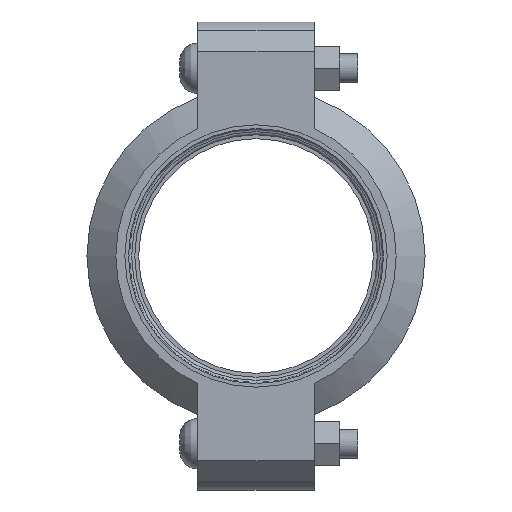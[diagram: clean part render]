
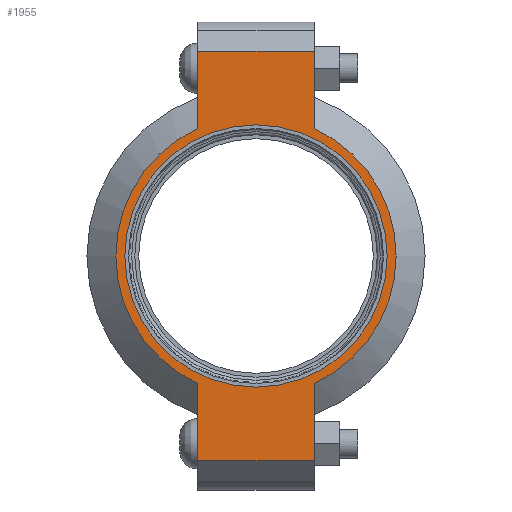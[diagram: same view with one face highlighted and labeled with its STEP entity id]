
A CAD part, left-side view. The second image highlights one B-rep face of the part: STEP entity #1955.
In plain terms, the highlighted planar face has unit normal (-1, 0, 0) as drawn and (0, 0, 1) by its records, which use the part's own axes.
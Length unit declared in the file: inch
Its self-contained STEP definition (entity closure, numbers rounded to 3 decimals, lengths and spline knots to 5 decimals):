
#144=LINE('',#3465,#241);
#152=LINE('',#3501,#249);
#159=LINE('',#3522,#256);
#168=LINE('',#3554,#265);
#169=LINE('',#3558,#266);
#170=LINE('',#3560,#267);
#241=VECTOR('',#2825,0.3937);
#249=VECTOR('',#2841,0.3937);
#256=VECTOR('',#2860,0.3937);
#265=VECTOR('',#2885,0.3937);
#266=VECTOR('',#2890,0.3937);
#267=VECTOR('',#2891,0.3937);
#323=FACE_BOUND('',#573,.T.);
#367=PLANE('',#2294);
#455=FACE_OUTER_BOUND('',#572,.T.);
#572=EDGE_LOOP('',(#1676,#1677,#1678,#1679,#1680,#1681,#1682,#1683));
#573=EDGE_LOOP('',(#1684));
#745=CIRCLE('',#2295,2.405);
#746=CIRCLE('',#2296,2.405);
#747=CIRCLE('',#2297,2.25);
#909=VERTEX_POINT('',#3462);
#910=VERTEX_POINT('',#3464);
#921=VERTEX_POINT('',#3496);
#922=VERTEX_POINT('',#3500);
#929=VERTEX_POINT('',#3519);
#930=VERTEX_POINT('',#3521);
#940=VERTEX_POINT('',#3557);
#941=VERTEX_POINT('',#3559);
#942=VERTEX_POINT('',#3562);
#1154=EDGE_CURVE('',#910,#909,#144,.T.);
#1168=EDGE_CURVE('',#922,#921,#152,.T.);
#1178=EDGE_CURVE('',#930,#929,#159,.T.);
#1193=EDGE_CURVE('',#922,#909,#168,.T.);
#1194=EDGE_CURVE('',#921,#930,#745,.T.);
#1195=EDGE_CURVE('',#940,#929,#169,.T.);
#1196=EDGE_CURVE('',#940,#941,#170,.T.);
#1197=EDGE_CURVE('',#941,#910,#746,.T.);
#1198=EDGE_CURVE('',#942,#942,#747,.T.);
#1676=ORIENTED_EDGE('',*,*,#1193,.F.);
#1677=ORIENTED_EDGE('',*,*,#1168,.T.);
#1678=ORIENTED_EDGE('',*,*,#1194,.T.);
#1679=ORIENTED_EDGE('',*,*,#1178,.T.);
#1680=ORIENTED_EDGE('',*,*,#1195,.F.);
#1681=ORIENTED_EDGE('',*,*,#1196,.T.);
#1682=ORIENTED_EDGE('',*,*,#1197,.T.);
#1683=ORIENTED_EDGE('',*,*,#1154,.T.);
#1684=ORIENTED_EDGE('',*,*,#1198,.T.);
#1955=ADVANCED_FACE('',(#455,#323),#367,.T.);
#2294=AXIS2_PLACEMENT_3D('',#3555,#2886,#2887);
#2295=AXIS2_PLACEMENT_3D('',#3556,#2888,#2889);
#2296=AXIS2_PLACEMENT_3D('',#3561,#2892,#2893);
#2297=AXIS2_PLACEMENT_3D('',#3563,#2894,#2895);
#2825=DIRECTION('',(1.,0.,0.));
#2841=DIRECTION('',(-1.,0.,0.));
#2860=DIRECTION('',(-1.,0.,0.));
#2885=DIRECTION('',(0.,-1.,0.));
#2886=DIRECTION('center_axis',(0.,0.,1.));
#2887=DIRECTION('ref_axis',(-1.,0.,0.));
#2888=DIRECTION('center_axis',(0.,0.,1.));
#2889=DIRECTION('ref_axis',(1.,0.,0.));
#2890=DIRECTION('',(0.,1.,0.));
#2891=DIRECTION('',(1.,0.,0.));
#2892=DIRECTION('center_axis',(0.,0.,1.));
#2893=DIRECTION('ref_axis',(1.,0.,0.));
#2894=DIRECTION('center_axis',(0.,0.,-1.));
#2895=DIRECTION('ref_axis',(1.,0.,0.));
#3462=CARTESIAN_POINT('',(3.515,-1.,1.065));
#3464=CARTESIAN_POINT('',(2.18724,-1.,1.065));
#3465=CARTESIAN_POINT('',(4.015,-1.,1.065));
#3496=CARTESIAN_POINT('',(2.18724,1.,1.065));
#3500=CARTESIAN_POINT('',(3.515,1.,1.065));
#3501=CARTESIAN_POINT('',(-4.015,1.,1.065));
#3519=CARTESIAN_POINT('',(-3.515,1.,1.065));
#3521=CARTESIAN_POINT('',(-2.18724,1.,1.065));
#3522=CARTESIAN_POINT('',(-4.015,1.,1.065));
#3554=CARTESIAN_POINT('',(3.515,-0.5,1.065));
#3555=CARTESIAN_POINT('Origin',(0.,0.,
1.065));
#3556=CARTESIAN_POINT('Origin',(0.,0.,1.065));
#3557=CARTESIAN_POINT('',(-3.515,-1.,1.065));
#3558=CARTESIAN_POINT('',(-3.515,0.5,1.065));
#3559=CARTESIAN_POINT('',(-2.18724,-1.,1.065));
#3560=CARTESIAN_POINT('',(4.015,-1.,1.065));
#3561=CARTESIAN_POINT('Origin',(0.,0.,1.065));
#3562=CARTESIAN_POINT('',(-2.25,0.,1.065));
#3563=CARTESIAN_POINT('Origin',(0.,0.,1.065));
